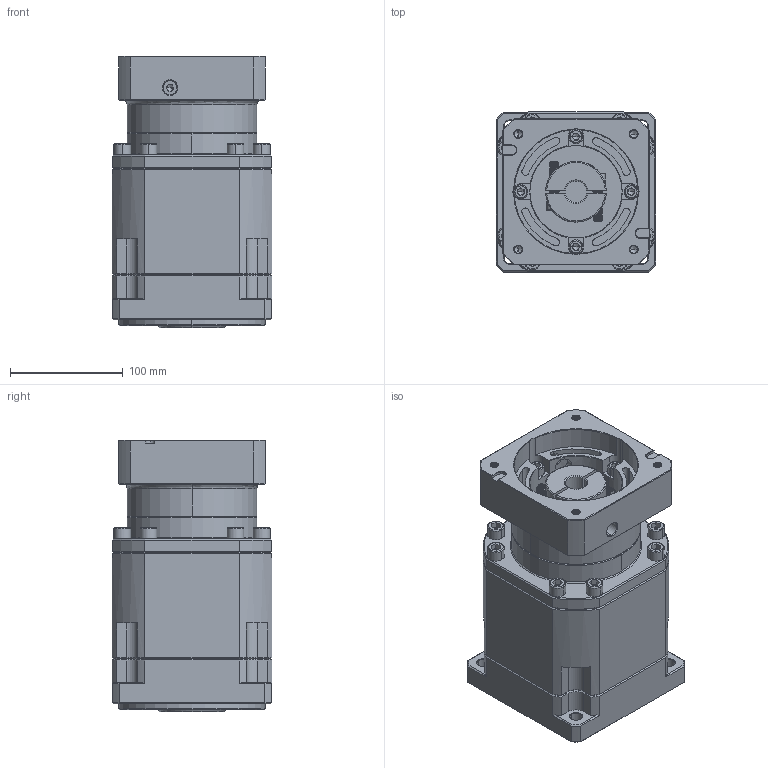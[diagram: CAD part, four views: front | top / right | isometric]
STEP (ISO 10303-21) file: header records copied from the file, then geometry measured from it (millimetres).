
FILE_DESCRIPTION (( 'STEP AP214' ), '1' );
FILE_NAME ('ZB142A-K35-L3-19-110-145-M8.step', '2023-03-18T07:08:35', ( '' ), ( '' ), 'SwSTEP 2.0', 'SolidWorks 2016', '' );
FILE_SCHEMA (( 'AUTOMOTIVE_DESIGN' ));
Length unit declared in the file: millimetre
Products named in the file (1): ZB142A-K35-L3-19-110-145-M8
Bounding box: 142 x 142 x 241.2 mm (x, y, z)
Volume: 3547081.4 mm3; surface area: 269742.6 mm2
Topology: 6 solids, 6 shells, 2261 faces, 5861 edges, 3714 vertices
Faces by surface type: plane 1044, cylinder 480, cone 380, bspline 302, torus 55
Entity records: 116571 total; most frequent: CARTESIAN_POINT 38870, ORIENTED_EDGE 11618, DIRECTION 9921, EDGE_CURVE 5809, VERTEX_POINT 3714, LINE 3603, VECTOR 3603, AXIS2_PLACEMENT_3D 3159
